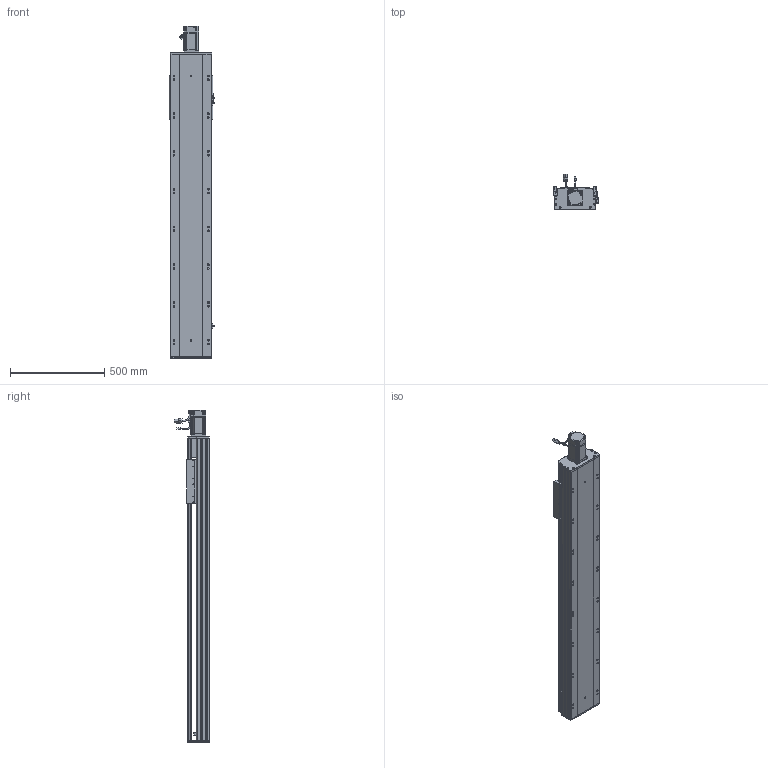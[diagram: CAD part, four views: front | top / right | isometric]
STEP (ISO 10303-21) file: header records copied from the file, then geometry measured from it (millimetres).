
FILE_DESCRIPTION (( 'STEP AP203' ), '1' );
FILE_NAME ('RY220-L2525-300-MK.SLDASM_1200.step', '2022-07-04T02:58:04', ( '' ), ( '' ), 'SwSTEP 2.0', 'SolidWorks 2016', '' );
FILE_SCHEMA (( 'CONFIG_CONTROL_DESIGN' ));
Length unit declared in the file: millimetre
Products named in the file (12): RY220半封闭25-32螺母铝滑块; 覜茼ん672; 滅袉蝶18-12; RY220菁釱MK-300_1200; RY220綴裔啣; 怢湛750W_ECMA-CX0807ES; RY220-俋离672覜茼んえ; RY220-L2525-300-MK.SLDASM_1200; 滅袉蝶18-15; RY220ヶ裔啣; RY220-300-奻裔啣-MK_1200; RY220电机支撑座FK20（PCD90M6）
Assembly tree (15 placements, depth 2):
  RY220-L2525-300-MK.SLDASM_1200
    RY220菁釱MK-300_1200
    RY220电机支撑座FK20（PCD90M6）
    怢湛750W_ECMA-CX0807ES
    滅袉蝶18-12  x2
    RY220ヶ裔啣
    RY220綴裔啣
    覜茼ん672  x3
    RY220半封闭25-32螺母铝滑块
    RY220-300-奻裔啣-MK_1200
    RY220-俋离672覜茼んえ
    滅袉蝶18-15  x2
Bounding box: 238.7 x 187.27 x 1758.3 mm (x, y, z)
Volume: 13668591.4 mm3; surface area: 3853603.3 mm2
Topology: 16 solids, 16 shells, 2252 faces, 6242 edges, 3934 vertices
Faces by surface type: cylinder 1022, plane 907, cone 261, bspline 36, sphere 16, torus 10
Entity records: 74050 total; most frequent: CARTESIAN_POINT 21029, ORIENTED_EDGE 11000, DIRECTION 10431, EDGE_CURVE 5500, AXIS2_PLACEMENT_3D 3681, VERTEX_POINT 3590, LINE 3069, VECTOR 3069
